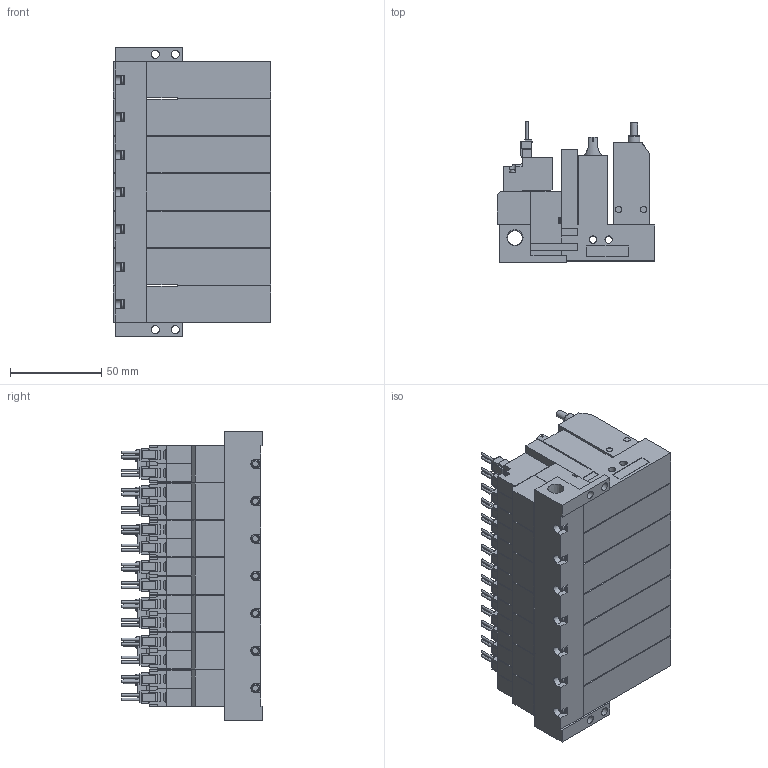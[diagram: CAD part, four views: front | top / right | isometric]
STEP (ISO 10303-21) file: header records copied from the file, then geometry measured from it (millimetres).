
FILE_DESCRIPTION(('STEP AP203'),'1');
FILE_NAME('ABS_ABPL5BLR707.stp','2025-02-25T02:16:17',(' '),(' '),'Spatial InterOp 3D',' ',' ');
FILE_SCHEMA(('CONFIG_CONTROL_DESIGN'));
Length unit declared in the file: millimetre
Products named in the file (5): BMC22M※※※※ABS_ABPL5BLR707; Solenoid valve B; Pressure sensor ABSL; Unit L; Base MR70R
Assembly tree (22 placements, depth 2):
  BMC22M※※※※ABS_ABPL5BLR707
    Solenoid valve B  x7
    Pressure sensor ABSL  x7
    Unit L  x7
    Base MR70R
Bounding box: 86.6 x 77.45 x 159 mm (x, y, z)
Volume: 622588.3 mm3; surface area: 171924.9 mm2
Topology: 22 solids, 22 shells, 2478 faces, 6646 edges, 4387 vertices
Faces by surface type: plane 2100, cylinder 299, cone 51, torus 28
Full cylindrical faces by diameter (mm): 1.4 x28, 2.5 x7, 3 x28, 3.5 x42, 3.6 x7, 4 x21, 4.134 x7, 4.5 x4, 5.2 x7, 6 x7, 6.5 x7, 6.6 x7, 8.279 x1
Entity records: 14482 total; most frequent: CARTESIAN_POINT 2794, DIRECTION 2317, ORIENTED_EDGE 2216, EDGE_CURVE 1108, LINE 871, VECTOR 871, VERTEX_POINT 785, AXIS2_PLACEMENT_3D 723
